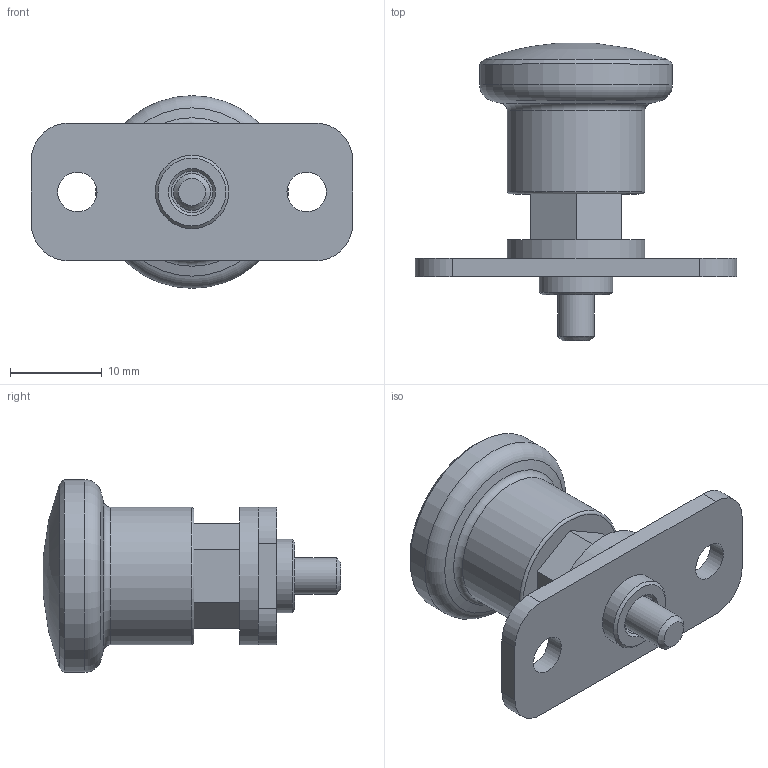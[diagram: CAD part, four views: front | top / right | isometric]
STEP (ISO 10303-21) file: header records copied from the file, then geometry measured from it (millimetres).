
FILE_DESCRIPTION( ( 'STEP AP203' ), '1' );
FILE_NAME( 'C:/Temp/Ganter_Step_05_03_2020/data/3_1/gn822_9/gn822_9_b/Stainless Steel-Mini indexing plunger GN 822.9-4-10-B (activated).stp', '2020-03-12T09:24:27', ( 'License CC BY-ND 4.0' ), ( 'CADENAS' ), ' ', 'PARTsolutions', ' ' );
FILE_SCHEMA( ( 'CONFIG_CONTROL_DESIGN' ) );
Length unit declared in the file: millimetre
Products named in the file (3): Stainless Steel-Mini indexing plunger GN 822.9-4-10-B (activated); _Stainless Steel-Mini indexing plunger GN 822.9-4-10-B (deactivated)_1; _Stainless Steel-Mini indexing plunger GN 822.9-4-10-B (unbetaetigt)_2
Assembly tree (2 placements, depth 2):
  Stainless Steel-Mini indexing plunger GN 822.9-4-10-B (activated)
    _Stainless Steel-Mini indexing plunger GN 822.9-4-10-B (deactivated)_1
    _Stainless Steel-Mini indexing plunger GN 822.9-4-10-B (unbetaetigt)_2
Bounding box: 35 x 32.43 x 21 mm (x, y, z)
Volume: 5067.8 mm3; surface area: 4296.8 mm2
Topology: 2 solids, 2 shells, 56 faces, 121 edges, 76 vertices
Faces by surface type: plane 29, cylinder 15, cone 8, torus 3, sphere 1
Full cylindrical faces by diameter (mm): 3 x1, 3.2 x1, 4 x1, 4.3 x2, 4.5 x2, 8 x1, 15 x2, 21 x1
Entity records: 1622 total; most frequent: CARTESIAN_POINT 373, DIRECTION 244, ORIENTED_EDGE 192, AXIS2_PLACEMENT_3D 101, EDGE_CURVE 96, EDGE_LOOP 92, VERTEX_POINT 74, FACE_OUTER_BOUND 71
